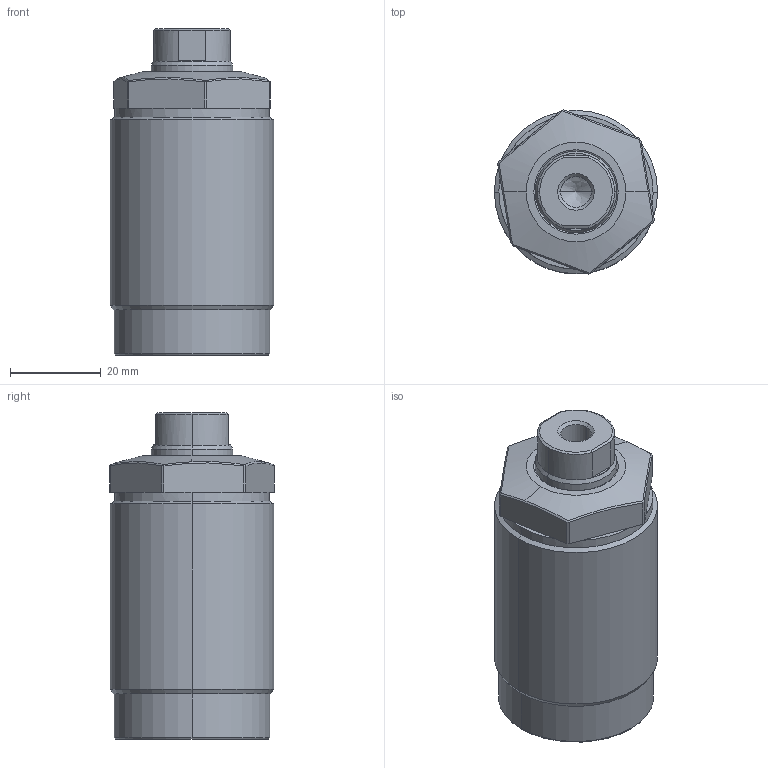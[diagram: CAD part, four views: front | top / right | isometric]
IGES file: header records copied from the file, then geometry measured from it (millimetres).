
Start section: SolidWorks IGES file using analytic representation for surfaces
Global section: file name: F:\THREADED BODY PUSHER-STD\TO3C-M364-M.IGS; native system: SolidWorks 2019; preprocessor: SolidWorks 2019; author: ADMIN; date: 200710.091248; units: millimetre
Bounding box: 36 x 36.23 x 72 mm (x, y, z)
Volume: 63130.8 mm3; surface area: 13377.9 mm2
Topology: 2 solids, 2 shells, 94 faces, 198 edges, 112 vertices
Faces by surface type: plane 45, revolution 43, bspline 6
